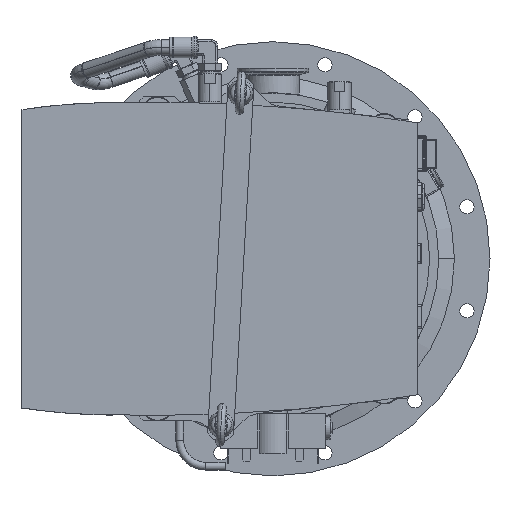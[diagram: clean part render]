
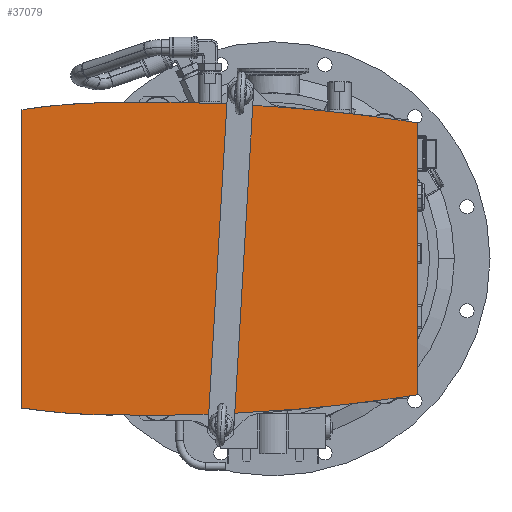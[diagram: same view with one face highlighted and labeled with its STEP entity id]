
A CAD part, front view. The second image highlights one B-rep face of the part: STEP entity #37079.
In plain terms, the highlighted planar face has unit normal (0, -1, 0) as drawn and (0, 1, 0) by its records, which use the part's own axes.
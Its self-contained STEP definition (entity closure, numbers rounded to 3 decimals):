
#32937=CARTESIAN_POINT('',(-1177.573,15.,106.));
#32938=DIRECTION('',(0.,1.,0.));
#32939=DIRECTION('',(0.995,0.,0.1));
#32940=AXIS2_PLACEMENT_3D('',#32937,#32938,#32939);
#32942=DIRECTION('',(0.108,0.,-0.994));
#32943=VECTOR('',#32942,21.233);
#32944=CARTESIAN_POINT('',(111.698,15.,256.444));
#32945=LINE('',#32944,#32943);
#32946=CARTESIAN_POINT('',(-1177.573,15.,106.));
#32947=DIRECTION('',(0.,1.,0.));
#32948=DIRECTION('',(0.988,0.,0.154));
#32949=AXIS2_PLACEMENT_3D('',#32946,#32947,#32948);
#32951=DIRECTION('',(1.,0.,0.));
#32952=VECTOR('',#32951,209.891);
#32953=CARTESIAN_POINT('',(-104.945,15.,306.));
#32954=LINE('',#32953,#32952);
#32955=CARTESIAN_POINT('',(1177.573,15.,106.));
#32956=DIRECTION('',(0.,1.,0.));
#32957=DIRECTION('',(-0.997,0.,0.084));
#32958=AXIS2_PLACEMENT_3D('',#32955,#32956,#32957);
#32960=CARTESIAN_POINT('',(1281.834,15.,97.255));
#32961=DIRECTION('',(0.,1.,0.));
#32962=DIRECTION('',(-1.,0.,-0.028));
#32963=AXIS2_PLACEMENT_3D('',#32960,#32961,#32962);
#32965=CARTESIAN_POINT('',(340.523,15.,71.));
#32966=DIRECTION('',(0.,1.,0.));
#32967=DIRECTION('',(-0.988,0.,-0.152));
#32968=AXIS2_PLACEMENT_3D('',#32965,#32966,#32967);
#32970=DIRECTION('',(-1.,0.,0.));
#32971=VECTOR('',#32970,230.2);
#32972=CARTESIAN_POINT('',(115.1,15.,1.));
#32973=LINE('',#32972,#32971);
#32974=CARTESIAN_POINT('',(-340.523,15.,71.));
#32975=DIRECTION('',(0.,1.,0.));
#32976=DIRECTION('',(1.,0.,-0.028));
#32977=AXIS2_PLACEMENT_3D('',#32974,#32975,#32976);
#32979=CARTESIAN_POINT('',(-1282.134,15.,97.247));
#32980=DIRECTION('',(0.,1.,0.));
#32981=DIRECTION('',(1.,0.,0.027));
#32982=AXIS2_PLACEMENT_3D('',#32979,#32980,#32981);
#32984=DIRECTION('',(0.035,0.,-0.999));
#32985=VECTOR('',#32984,20.925);
#32986=CARTESIAN_POINT('',(119.563,15.,156.42));
#32987=LINE('',#32986,#32985);
#32988=CARTESIAN_POINT('',(-1282.134,15.,97.247));
#32989=DIRECTION('',(0.,1.,0.));
#32990=DIRECTION('',(0.997,0.,0.083));
#32991=AXIS2_PLACEMENT_3D('',#32988,#32989,#32990);
#35343=CARTESIAN_POINT('',(113.987,15.,235.334));
#35344=CARTESIAN_POINT('',(115.922,15.,214.282));
#35345=VERTEX_POINT('',#35343);
#35346=VERTEX_POINT('',#35344);
#35347=CARTESIAN_POINT('',(119.563,15.,156.42));
#35348=VERTEX_POINT('',#35347);
#35349=CARTESIAN_POINT('',(120.29,15.,135.508));
#35350=VERTEX_POINT('',#35349);
#35351=CARTESIAN_POINT('',(120.267,15.,58.156));
#35352=VERTEX_POINT('',#35351);
#35353=CARTESIAN_POINT('',(115.1,15.,1.));
#35354=VERTEX_POINT('',#35353);
#35355=CARTESIAN_POINT('',(-115.1,15.,1.));
#35356=VERTEX_POINT('',#35355);
#35357=CARTESIAN_POINT('',(-120.267,15.,58.148));
#35358=VERTEX_POINT('',#35357);
#35359=CARTESIAN_POINT('',(-115.904,15.,214.489));
#35360=VERTEX_POINT('',#35359);
#35361=CARTESIAN_POINT('',(-104.945,15.,306.));
#35362=VERTEX_POINT('',#35361);
#35363=CARTESIAN_POINT('',(104.945,15.,306.));
#35364=VERTEX_POINT('',#35363);
#35365=CARTESIAN_POINT('',(111.698,15.,256.444));
#35366=VERTEX_POINT('',#35365);
#37049=CARTESIAN_POINT('',(0.,15.,0.));
#37050=DIRECTION('',(0.,1.,0.));
#37051=DIRECTION('',(0.,0.,1.));
#37052=AXIS2_PLACEMENT_3D('',#37049,#37050,#37051);
#37053=PLANE('',#37052);
#37055=ORIENTED_EDGE('',*,*,#37054,.F.);
#37057=ORIENTED_EDGE('',*,*,#37056,.F.);
#37059=ORIENTED_EDGE('',*,*,#37058,.F.);
#37060=ORIENTED_EDGE('',*,*,#36344,.F.);
#37062=ORIENTED_EDGE('',*,*,#37061,.F.);
#37064=ORIENTED_EDGE('',*,*,#37063,.F.);
#37066=ORIENTED_EDGE('',*,*,#37065,.F.);
#37068=ORIENTED_EDGE('',*,*,#37067,.F.);
#37070=ORIENTED_EDGE('',*,*,#37069,.F.);
#37072=ORIENTED_EDGE('',*,*,#37071,.F.);
#37074=ORIENTED_EDGE('',*,*,#37073,.F.);
#37076=ORIENTED_EDGE('',*,*,#37075,.F.);
#37077=EDGE_LOOP('',(#37055,#37057,#37059,#37060,#37062,#37064,#37066,#37068,
#37070,#37072,#37074,#37076));
#37078=FACE_OUTER_BOUND('',#37077,.F.);
#37079=ADVANCED_FACE('',(#37078),#37053,.T.);
#32941=CIRCLE('',#32940,1298.019);
#32950=CIRCLE('',#32949,1298.019);
#32959=CIRCLE('',#32958,1298.019);
#32964=CIRCLE('',#32963,1402.646);
#32969=CIRCLE('',#32968,460.969);
#32978=CIRCLE('',#32977,460.969);
#32983=CIRCLE('',#32982,1402.946);
#32992=CIRCLE('',#32991,1402.946);
#36344=EDGE_CURVE('',#35362,#35364,#32954,.T.);
#37054=EDGE_CURVE('',#35345,#35346,#32941,.T.);
#37056=EDGE_CURVE('',#35366,#35345,#32945,.T.);
#37058=EDGE_CURVE('',#35364,#35366,#32950,.T.);
#37061=EDGE_CURVE('',#35360,#35362,#32959,.T.);
#37063=EDGE_CURVE('',#35358,#35360,#32964,.T.);
#37065=EDGE_CURVE('',#35356,#35358,#32969,.T.);
#37067=EDGE_CURVE('',#35354,#35356,#32973,.T.);
#37069=EDGE_CURVE('',#35352,#35354,#32978,.T.);
#37071=EDGE_CURVE('',#35350,#35352,#32983,.T.);
#37073=EDGE_CURVE('',#35348,#35350,#32987,.T.);
#37075=EDGE_CURVE('',#35346,#35348,#32992,.T.);
